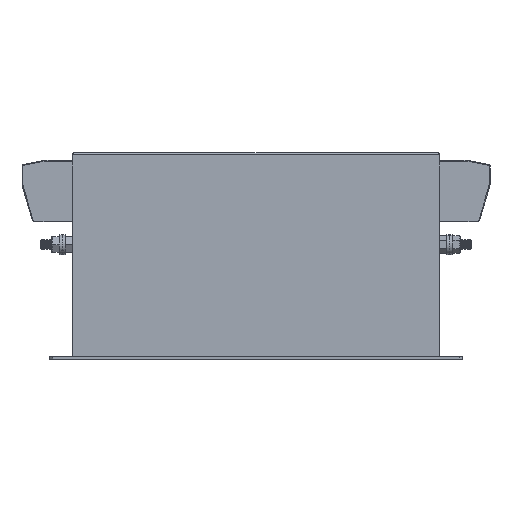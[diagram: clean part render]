
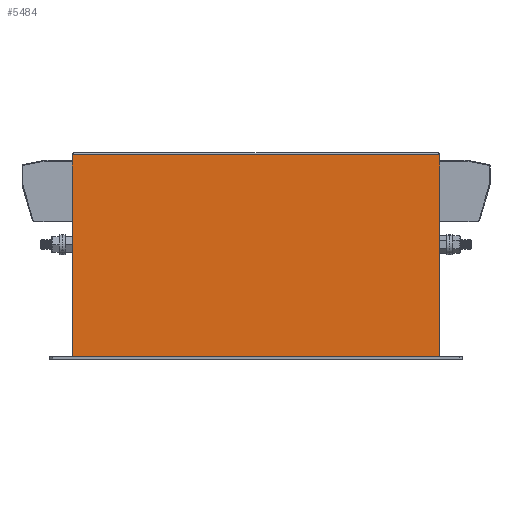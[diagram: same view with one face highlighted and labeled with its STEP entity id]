
A CAD part, top view. The second image highlights one B-rep face of the part: STEP entity #5484.
In plain terms, the highlighted planar face has unit normal (0, 0, 1).
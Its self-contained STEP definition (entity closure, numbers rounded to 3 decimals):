
#1392 = CARTESIAN_POINT ( 'NONE',  ( 255., 1.5, 1.5 ) ) ;
#1402 = DIRECTION ( 'NONE',  ( 1., 0., 0. ) ) ;
#1403 = VECTOR ( 'NONE', #1402, 1000. ) ;
#1404 = CARTESIAN_POINT ( 'NONE',  ( 15., 1.5, 1.5 ) ) ;
#1406 = LINE ( 'NONE', #1404, #1403 ) ;
#1417 = CARTESIAN_POINT ( 'NONE',  ( 15., 1.5, 1.5 ) ) ;
#4945 = VERTEX_POINT ( 'NONE', #1417 ) ;
#4951 = VERTEX_POINT ( 'NONE', #1392 ) ;
#4953 = EDGE_CURVE ( 'NONE', #4945, #4951, #1406, .T. ) ;
#5351 = EDGE_CURVE ( 'NONE', #5352, #4945, #7143, .T. ) ;
#5352 = VERTEX_POINT ( 'NONE', #7155 ) ;
#5484 = ADVANCED_FACE ( 'NONE', ( #7959 ), #7958, .F. ) ;
#5485 = EDGE_LOOP ( 'NONE', ( #5486, #5489, #5491, #5492 ) ) ;
#5486 = ORIENTED_EDGE ( 'NONE', *, *, #5487, .F. ) ;
#5487 = EDGE_CURVE ( 'NONE', #5488, #4951, #6875, .T. ) ;
#5488 = VERTEX_POINT ( 'NONE', #6871 ) ;
#5489 = ORIENTED_EDGE ( 'NONE', *, *, #5490, .T. ) ;
#5490 = EDGE_CURVE ( 'NONE', #5488, #5352, #6870, .T. ) ;
#5491 = ORIENTED_EDGE ( 'NONE', *, *, #5351, .T. ) ;
#5492 = ORIENTED_EDGE ( 'NONE', *, *, #4953, .T. ) ;
#6836 = DIRECTION ( 'NONE',  ( 0., 0., -1. ) ) ;
#6837 = AXIS2_PLACEMENT_3D ( 'NONE', #6840, #6836, #6839 ) ;
#6839 = DIRECTION ( 'NONE',  ( -1., 0., 0. ) ) ;
#6840 = CARTESIAN_POINT ( 'NONE',  ( 15., 135., 1.5 ) ) ;
#6867 = DIRECTION ( 'NONE',  ( -1., 0., 0. ) ) ;
#6868 = VECTOR ( 'NONE', #6867, 1000. ) ;
#6869 = CARTESIAN_POINT ( 'NONE',  ( 15., 133.5, 1.5 ) ) ;
#6870 = LINE ( 'NONE', #6869, #6868 ) ;
#6871 = CARTESIAN_POINT ( 'NONE',  ( 255., 133.5, 1.5 ) ) ;
#6872 = DIRECTION ( 'NONE',  ( 0., -1., 0. ) ) ;
#6873 = VECTOR ( 'NONE', #6872, 1000. ) ;
#6874 = CARTESIAN_POINT ( 'NONE',  ( 255., 135., 1.5 ) ) ;
#6875 = LINE ( 'NONE', #6874, #6873 ) ;
#7143 = LINE ( 'NONE', #7154, #7159 ) ;
#7154 = CARTESIAN_POINT ( 'NONE',  ( 15., 135., 1.5 ) ) ;
#7155 = CARTESIAN_POINT ( 'NONE',  ( 15., 133.5, 1.5 ) ) ;
#7159 = VECTOR ( 'NONE', #7160, 1000. ) ;
#7160 = DIRECTION ( 'NONE',  ( 0., -1., 0. ) ) ;
#7958 = PLANE ( 'NONE',  #6837 ) ;
#7959 = FACE_OUTER_BOUND ( 'NONE', #5485, .T. ) ;
